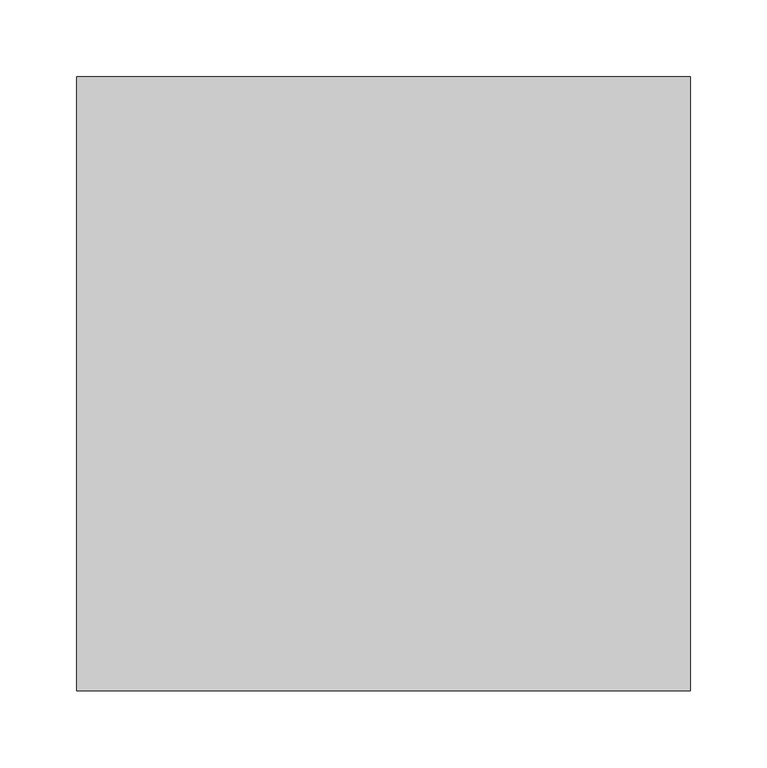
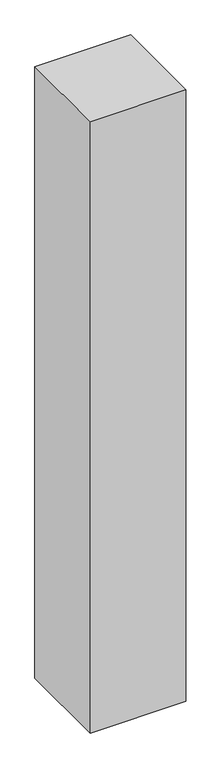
"""IFC4 building model written with IfcOpenShell, lengths in millimetres: column geometry, ADSK_КолоннаЖБ_Прямоугольная : 400x400 мм."""

import ifcopenshell
import ifcopenshell.guid

model = None  # the IFC model being written
_history = None  # IfcOwnerHistory: only IFC2X3 demands one
_inside = {}  # id of a spatial element -> (the spatial element, [elements in it])
_under = {}  # id of a project, library or spatial element -> (it, [spatial elements below it])
_declared = {}  # id of a project -> (the project, [libraries it declares])
_typed = {}  # id of a type object -> (the type object, [elements of that type])
_made_of = {}  # id of a material, layer set ... -> (it, [elements and type objects made of it])


def new_model(schema):
    """Start an empty IFC model of exactly this schema.

    Asked for "IFC4X3", IfcOpenShell would pick the latest addendum, in which some entities
    have other attributes; the version numbers below select the first issue.
    IFC2X3 requires an IfcOwnerHistory on every rooted entity: one is made here for all.
    """
    global model, _history
    if schema == "IFC4X3":
        model = ifcopenshell.file(schema_version=(4, 3, 0, 0))
    else:
        model = ifcopenshell.file(schema=schema)
    _inside.clear()
    _under.clear()
    _declared.clear()
    _typed.clear()
    _made_of.clear()
    _history = None
    if model.schema == "IFC2X3":
        org = make("IfcOrganization", Name="unknown")
        user = make(
            "IfcPersonAndOrganization",
            ThePerson=make("IfcPerson", FamilyName="unknown"),
            TheOrganization=org,
        )
        app = make(
            "IfcApplication",
            ApplicationDeveloper=org,
            Version="unknown",
            ApplicationFullName="unknown",
            ApplicationIdentifier="unknown",
        )
        _history = make(
            "IfcOwnerHistory",
            OwningUser=user,
            OwningApplication=app,
            ChangeAction="ADDED",
            CreationDate=0,
        )
    return model


def make(cls, **values):
    """One entity of the class cls with the attributes given. An attribute that is None is left unset."""
    return model.create_entity(
        cls, **{name: value for name, value in values.items() if value is not None}
    )


def rooted(cls, **values):
    """An entity with a GlobalId (a new one), such as an element, a storey or a relation."""
    return make(cls, GlobalId=ifcopenshell.guid.new(), OwnerHistory=_history, **values)


def si_unit(unit_type, name, prefix=None):
    """IfcSIUnit, for example si_unit("LENGTHUNIT", "METRE", prefix="MILLI")."""
    return make("IfcSIUnit", UnitType=unit_type, Prefix=prefix, Name=name)


def assignment(units):
    """IfcUnitAssignment: the units of a project."""
    return None if units is None else make("IfcUnitAssignment", Units=units)


def point(xyz):
    """IfcCartesianPoint."""
    return None if xyz is None else make("IfcCartesianPoint", Coordinates=xyz)


def direction(xyz):
    """IfcDirection."""
    return None if xyz is None else make("IfcDirection", DirectionRatios=xyz)


def frame(location, z_axis=None, x_axis=None):
    """IfcAxis2Placement3D, a coordinate frame: its origin and axes. An axis left out is left unset."""
    return make(
        "IfcAxis2Placement3D",
        Location=point(location),
        Axis=direction(z_axis),
        RefDirection=direction(x_axis),
    )


def origin():
    """The frame at (0, 0, 0) with its axes left unset."""
    return frame((0.0, 0.0, 0.0))


def origin_with_axes():
    """The frame at (0, 0, 0) with the z axis (0, 0, 1) and the x axis (1, 0, 0) written out."""
    return frame((0.0, 0.0, 0.0), z_axis=(0.0, 0.0, 1.0), x_axis=(1.0, 0.0, 0.0))


def place(relative_to, where):
    """IfcLocalPlacement: puts the frame where relative to a parent placement (None: the world)."""
    return make(
        "IfcLocalPlacement", PlacementRelTo=relative_to, RelativePlacement=where
    )


def context(
    kind, dimensions, precision=None, world=None, true_north=None, identifier=None
):
    """IfcGeometricRepresentationContext, for example the 3D "Model" context."""
    return make(
        "IfcGeometricRepresentationContext",
        ContextIdentifier=identifier,
        ContextType=kind,
        CoordinateSpaceDimension=dimensions,
        Precision=precision,
        WorldCoordinateSystem=world,
        TrueNorth=true_north,
    )


def project(units=None, contexts=None):
    """IfcProject with its units and contexts."""
    return rooted(
        "IfcProject",
        Name="project",
        RepresentationContexts=contexts,
        UnitsInContext=assignment(units),
    )


def spatial(cls, under=None, at=None, **own):
    """A site, building, storey or space (cls), placed at a placement, below another one or the project."""
    s = rooted(cls, ObjectPlacement=at, **own)
    if under is not None:
        _under.setdefault(under.id(), (under, []))[1].append(s)
    return s


def polyline(points):
    """IfcPolyline through the points."""
    return make("IfcPolyline", Points=[point(p) for p in points])


def outline(outer, holes=None, kind="AREA"):
    """IfcArbitraryClosedProfileDef: a profile drawn as a closed curve; with holes, ...WithVoids."""
    if holes is None:
        return make("IfcArbitraryClosedProfileDef", ProfileType=kind, OuterCurve=outer)
    return make(
        "IfcArbitraryProfileDefWithVoids",
        ProfileType=kind,
        OuterCurve=outer,
        InnerCurves=holes,
    )


def extrude(swept, where, along, depth):
    """IfcExtrudedAreaSolid: the profile swept, set in the frame where, extruded along a direction by depth."""
    return make(
        "IfcExtrudedAreaSolid",
        SweptArea=swept,
        Position=where,
        ExtrudedDirection=direction(along),
        Depth=depth,
    )


def shape(context_of_items, identifier, shape_type, items):
    """IfcShapeRepresentation: the items that make up one representation, for example the "Body"."""
    return make(
        "IfcShapeRepresentation",
        ContextOfItems=context_of_items,
        RepresentationIdentifier=identifier,
        RepresentationType=shape_type,
        Items=items,
    )


def source(mapping_origin, context_of_items, identifier, shape_type, items):
    """IfcRepresentationMap: a shape defined once, which mapped items show again and again."""
    return make(
        "IfcRepresentationMap",
        MappingOrigin=mapping_origin,
        MappedRepresentation=shape(context_of_items, identifier, shape_type, items),
    )


def transform(
    local_origin,
    x_axis=None,
    y_axis=None,
    z_axis=None,
    scale=None,
    scale2=None,
    scale3=None,
    uniform=True,
):
    """IfcCartesianTransformationOperator3D, or its non-uniform kind. x_axis, y_axis, z_axis: its Axis1, 2, 3."""
    if uniform:
        return make(
            "IfcCartesianTransformationOperator3D",
            Axis1=direction(x_axis),
            Axis2=direction(y_axis),
            LocalOrigin=point(local_origin),
            Scale=scale,
            Axis3=direction(z_axis),
        )
    return make(
        "IfcCartesianTransformationOperator3DnonUniform",
        Axis1=direction(x_axis),
        Axis2=direction(y_axis),
        LocalOrigin=point(local_origin),
        Scale=scale,
        Axis3=direction(z_axis),
        Scale2=scale2,
        Scale3=scale3,
    )


def mapped(mapping_source, mapping_target):
    """IfcMappedItem: shows the shape of a source again, moved by a transform."""
    return make(
        "IfcMappedItem", MappingSource=mapping_source, MappingTarget=mapping_target
    )


def made_of(thing, what):
    """Note that an element or type object is made of a material, layer set ...; save() writes the relation."""
    if what is not None:
        _made_of.setdefault(what.id(), (what, []))[1].append(thing)
    return thing


def element(
    cls,
    number,
    at=None,
    inside=None,
    cuts=None,
    type_object=None,
    material=None,
    context=None,
    identifier="Body",
    shape_type=None,
    held_by="IfcProductDefinitionShape",
    body=None,
    shapes=None,
    **own,
):
    """One element of the class cls, such as IfcWall. Its Tag is "e" and its number.

    at: its placement. inside: the storey or other place that contains it. cuts: it is an
    opening in that element (IfcRelVoidsElement). A single representation is given by context,
    identifier, shape_type and body (its items); several are given by shapes. held_by: the class
    of the entity that holds the representations. save() writes the other relations.
    """
    e = rooted(cls, Tag="e%d" % number, ObjectPlacement=at, **own)
    if body is not None:
        shapes = [shape(context, identifier, shape_type, body)]
    if shapes is not None:
        e.Representation = make(held_by, Representations=shapes)
    if inside is not None:
        _inside.setdefault(inside.id(), (inside, []))[1].append(e)
    if cuts is not None:
        rooted(
            "IfcRelVoidsElement", RelatingBuildingElement=cuts, RelatedOpeningElement=e
        )
    if type_object is not None:
        _typed.setdefault(type_object.id(), (type_object, []))[1].append(e)
    return made_of(e, material)


def aggregate(whole, parts):
    """IfcRelAggregates: a whole, such as a stair, and the parts it consists of."""
    return rooted("IfcRelAggregates", RelatingObject=whole, RelatedObjects=parts)


def save(model, path):
    """Write the relations noted so far, then the file.

    IfcRelAggregates (storeys below a building ...), IfcRelContainedInSpatialStructure (elements
    in a storey), IfcRelDefinesByType, IfcRelAssociatesMaterial and IfcRelDeclares: one each for
    every whole, place, type object, material and project.
    """
    for whole, parts in _under.values():
        aggregate(whole, parts)
    for where, things in _inside.values():
        rooted(
            "IfcRelContainedInSpatialStructure",
            RelatedElements=things,
            RelatingStructure=where,
        )
    for kind, things in _typed.values():
        rooted("IfcRelDefinesByType", RelatedObjects=things, RelatingType=kind)
    for what, things in _made_of.values():
        rooted("IfcRelAssociatesMaterial", RelatedObjects=things, RelatingMaterial=what)
    for by, libraries in _declared.values():
        rooted("IfcRelDeclares", RelatingContext=by, RelatedDefinitions=libraries)
    model.write(path)


def column_20871b20(model_context):
    return source(origin(), model_context, "Body", "SweptSolid", [
        extrude(outline(polyline([(200.0, 200.0), (200.0, -200.0), (-200.0, -200.0), (-200.0, 200.0), (200.0, 200.0)])), origin_with_axes(), (0.0, 0.0, 1.0), 2700.0),
    ])


if __name__ == "__main__":
    model = new_model("IFC4")
    model_context = context("Model", 3, world=origin())
    ifc_project = project(units=[si_unit("LENGTHUNIT", "METRE", prefix="MILLI")], contexts=[model_context])
    site = spatial("IfcSite", under=ifc_project)
    building = spatial("IfcBuilding", under=site)
    placement = place(None, origin())
    column_shape = column_20871b20(model_context)
    element("IfcColumn", 1, ObjectType="ADSK_КолоннаЖБ_Прямоугольная : 400x400 мм", at=placement, inside=building, context=model_context, shape_type="MappedRepresentation", body=[
        mapped(column_shape, transform((0.0, 0.0, 0.0), x_axis=(1.0, 0.0, 0.0), y_axis=(0.0, 1.0, 0.0), z_axis=(0.0, 0.0, 1.0))),
    ])
    save(model, "model.ifc")
